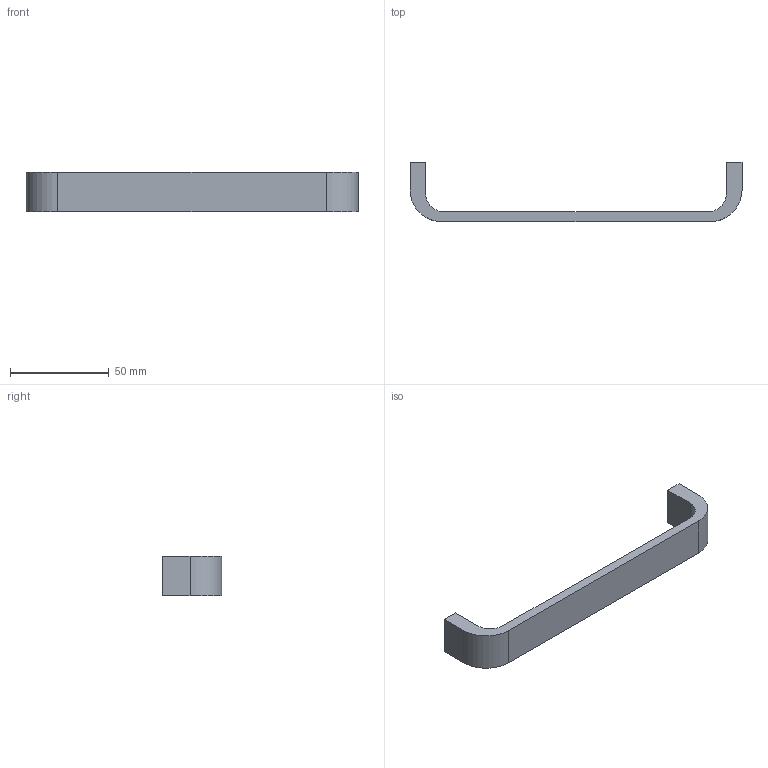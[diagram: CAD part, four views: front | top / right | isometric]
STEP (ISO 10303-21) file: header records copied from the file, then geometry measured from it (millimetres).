
FILE_DESCRIPTION( ( 'STEP AP214' ), '1' );
FILE_NAME( 'D:/Yug/2020/ProDecor_2020/QC/9266568.stp', '2020-06-01T11:41:27', ( '' ), ( '' ), ' ', 'PARTsolutions', ' ' );
FILE_SCHEMA( ( 'AUTOMOTIVE_DESIGN { 1 0 10303 214 1 1 1 1 }' ) );
Length unit declared in the file: millimetre
Products named in the file (1): _9266568
Bounding box: 168 x 30 x 20 mm (x, y, z)
Volume: 23165.1 mm3; surface area: 10983.9 mm2
Topology: 1 solids, 1 shells, 18 faces, 42 edges, 28 vertices
Faces by surface type: plane 12, cylinder 6
Full cylindrical faces by diameter (mm): 3.25 x2
Entity records: 668 total; most frequent: DIRECTION 90, CARTESIAN_POINT 87, ORIENTED_EDGE 80, EDGE_CURVE 40, AXIS2_PLACEMENT_3D 31, VERTEX_POINT 28, LINE 28, VECTOR 28
